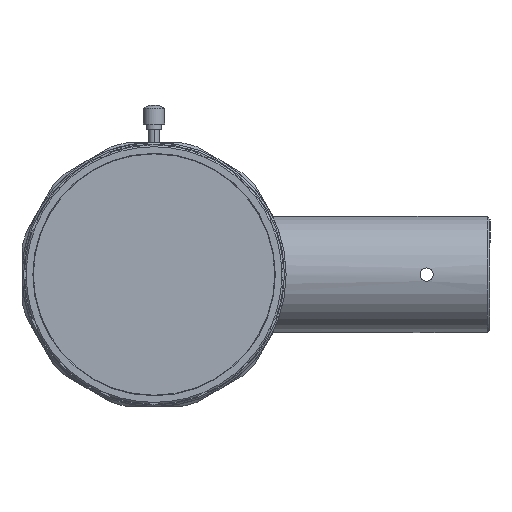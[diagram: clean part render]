
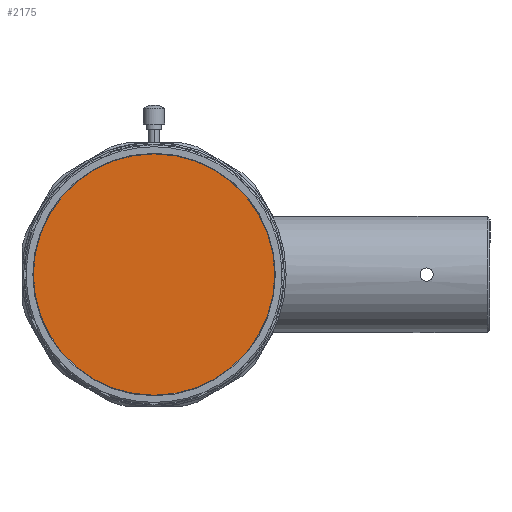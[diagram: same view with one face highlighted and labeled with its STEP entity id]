
A CAD part, left-side view. The second image highlights one B-rep face of the part: STEP entity #2175.
In plain terms, the highlighted planar face has unit normal (-1, 0, 0).
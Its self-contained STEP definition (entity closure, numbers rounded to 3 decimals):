
#35 = CIRCLE ( 'NONE', #11106, 22.85 ) ;
#437 = DIRECTION ( 'NONE',  ( -1., 0., 0. ) ) ;
#512 = CIRCLE ( 'NONE', #2948, 22.85 ) ;
#1715 = VERTEX_POINT ( 'NONE', #6648 ) ;
#2175 = ADVANCED_FACE ( 'NONE', ( #8748 ), #6357, .T. ) ;
#2451 = EDGE_CURVE ( 'NONE', #1715, #16023, #35, .T. ) ;
#2948 = AXIS2_PLACEMENT_3D ( 'NONE', #3228, #437, #9699 ) ;
#3102 = DIRECTION ( 'NONE',  ( 0., 0., 1. ) ) ;
#3228 = CARTESIAN_POINT ( 'NONE',  ( 0.1, 0., 0. ) ) ;
#4404 = ORIENTED_EDGE ( 'NONE', *, *, #2451, .T. ) ;
#4461 = CARTESIAN_POINT ( 'NONE',  ( 0.1, 0., 0. ) ) ;
#6135 = CARTESIAN_POINT ( 'NONE',  ( 0.1, 0., 0. ) ) ;
#6357 = PLANE ( 'NONE',  #15358 ) ;
#6648 = CARTESIAN_POINT ( 'NONE',  ( 0.1, 0., 22.85 ) ) ;
#8748 = FACE_OUTER_BOUND ( 'NONE', #13046, .T. ) ;
#9699 = DIRECTION ( 'NONE',  ( 0., 0., 1. ) ) ;
#11106 = AXIS2_PLACEMENT_3D ( 'NONE', #4461, #16374, #3102 ) ;
#11542 = DIRECTION ( 'NONE',  ( 0., 0., 1. ) ) ;
#12907 = ORIENTED_EDGE ( 'NONE', *, *, #14292, .T. ) ;
#13046 = EDGE_LOOP ( 'NONE', ( #4404, #12907 ) ) ;
#14171 = DIRECTION ( 'NONE',  ( -1., 0., 0. ) ) ;
#14292 = EDGE_CURVE ( 'NONE', #16023, #1715, #512, .T. ) ;
#14377 = CARTESIAN_POINT ( 'NONE',  ( 0.1, 0., -22.85 ) ) ;
#15358 = AXIS2_PLACEMENT_3D ( 'NONE', #6135, #14171, #11542 ) ;
#16023 = VERTEX_POINT ( 'NONE', #14377 ) ;
#16374 = DIRECTION ( 'NONE',  ( -1., 0., 0. ) ) ;
